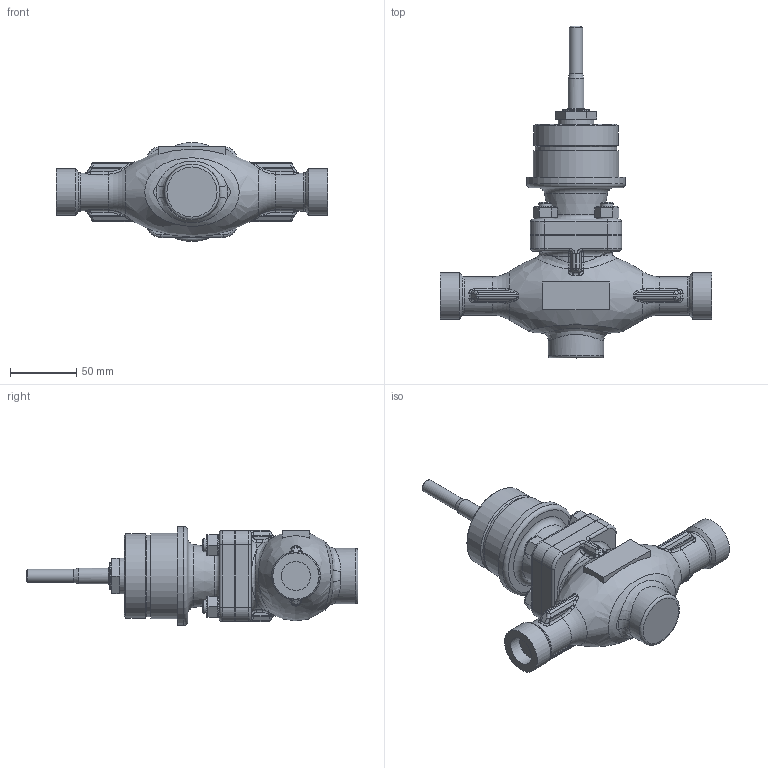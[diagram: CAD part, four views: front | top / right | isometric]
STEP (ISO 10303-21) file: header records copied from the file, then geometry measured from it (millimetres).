
FILE_DESCRIPTION(/* description */ (''),/* implementation_level */ '2;1');
FILE_NAME(/* name */ 'CV3xx_NPS_1_2_privarovaci_SW_CL600.stp',/* time_stamp */ '2017-05-05T07:58:03+02:00',/* author */ (''),/* organization */ (''),/* preprocessor_version */ 'ST-DEVELOPER v15',/* originating_system */ 'SIEMENS PLM Software NX 8.5',/* authorisation */ '');
FILE_SCHEMA (('AP203_CONFIGURATION_CONTROLLED_3D_DESIGN_OF_MECHANICAL_PARTS_AND_ASSEMBLIES_MIM_LF { 1 0 10303 403 2 1 2}'));
Length unit declared in the file: millimetre
Products named in the file (1): adam123C24F3gp50
Bounding box: 206 x 251.47 x 75 mm (x, y, z)
Volume: 724652.6 mm3; surface area: 81499.6 mm2
Topology: 1 solids, 1 shells, 472 faces, 1072 edges, 611 vertices
Faces by surface type: cylinder 130, plane 117, bspline 94, cone 76, torus 31, sphere 24
Full cylindrical faces by diameter (mm): 10 x9, 11 x4, 12 x1, 14 x1, 16 x8, 18 x1, 21 x1, 22 x2, 27 x1, 29 x2, 35 x2, 42 x1, 48 x1, 61.6 x1, 64 x1, 65 x1, 75 x1
Entity records: 14646 total; most frequent: CARTESIAN_POINT 5310, ORIENTED_EDGE 1888, DIRECTION 1846, EDGE_CURVE 944, AXIS2_PLACEMENT_3D 806, EDGE_LOOP 578, VERTEX_POINT 572, ADVANCED_FACE 472
